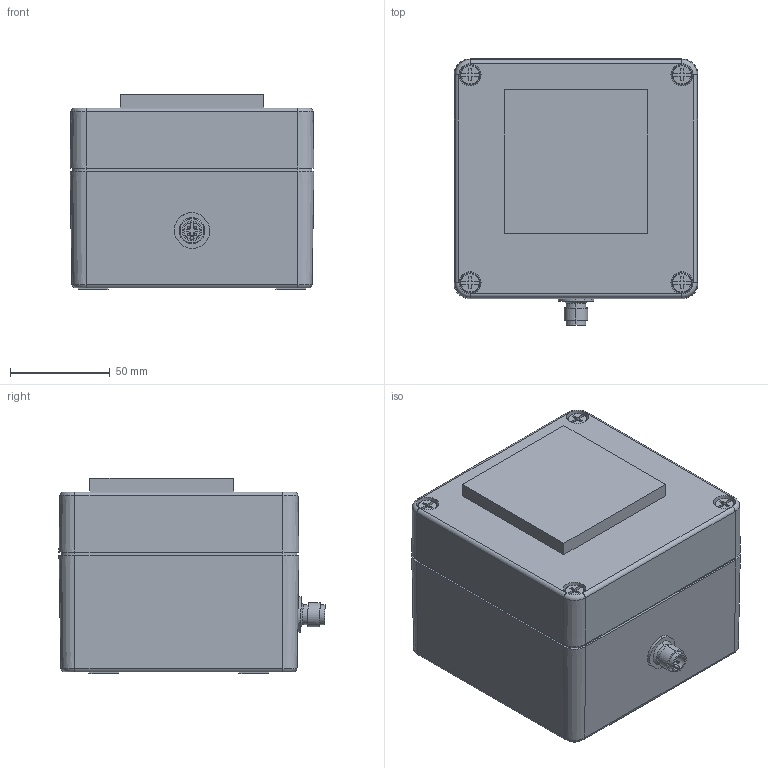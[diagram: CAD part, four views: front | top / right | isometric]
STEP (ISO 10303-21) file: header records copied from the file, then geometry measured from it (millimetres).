
FILE_DESCRIPTION(/* description */ ('Alibre Inc.'),/* implementation_level */ '2;1');
FILE_NAME(/* name */ 'export0',/* time_stamp */ '2014-01-24T10:57:21+01:00',/* author */ (''),/* organization */ (''),/* preprocessor_version */ 'ST-DEVELOPER v14',/* originating_system */ 'Alibre',/* authorisation */ '');
FILE_SCHEMA (('CONFIG_CONTROL_DESIGN'));
Length unit declared in the file: millimetre
Products named in the file (6): HI_ROSE 01.12 12 09_H; HI_ROSE 01.12 12 09_C; HI_ROSE 01.12 12 09_S; ID_1; ROSE 01.12 12 09
Bounding box: 122 x 133.08 x 98 mm (x, y, z)
Volume: 632834.4 mm3; surface area: 180495 mm2
Topology: 9 solids, 9 shells, 625 faces, 1560 edges, 983 vertices
Faces by surface type: plane 289, cylinder 180, cone 97, torus 40, bspline 15, sphere 4
Full cylindrical faces by diameter (mm): 4.917 x11, 5.3 x8, 6 x4, 6.5 x6, 14.376 x1
Entity records: 16532 total; most frequent: CARTESIAN_POINT 3212, DIRECTION 2640, ORIENTED_EDGE 2540, EDGE_CURVE 1270, AXIS2_PLACEMENT_3D 1121, VERTEX_POINT 843, EDGE_LOOP 691, FACE_BOUND 691
